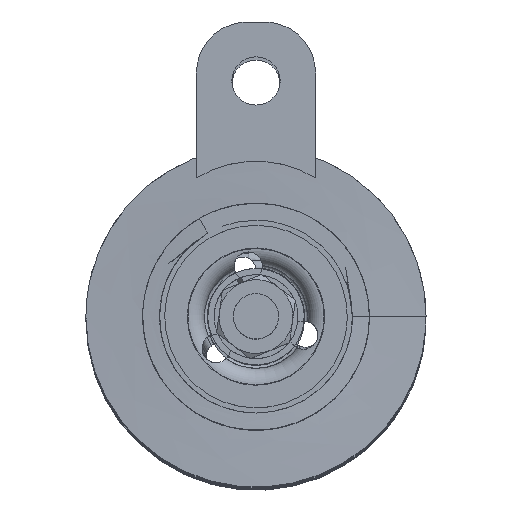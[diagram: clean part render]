
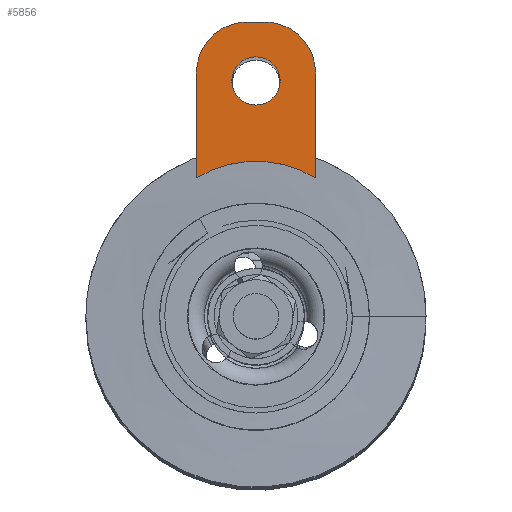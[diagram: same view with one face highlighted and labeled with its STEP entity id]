
A CAD part, top view. The second image highlights one B-rep face of the part: STEP entity #5856.
In plain terms, the highlighted planar face has unit normal (0, 0, 1).
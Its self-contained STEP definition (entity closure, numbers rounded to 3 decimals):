
#170=FACE_BOUND('',#783,.T.);
#184=PLANE('',#6373);
#462=FACE_OUTER_BOUND('',#782,.T.);
#782=EDGE_LOOP('',(#5002,#5003,#5004,#5005,#5006,#5007));
#783=EDGE_LOOP('',(#5008));
#869=CIRCLE('',#6372,20.1);
#870=CIRCLE('',#6374,9.);
#871=CIRCLE('',#6375,9.);
#872=CIRCLE('',#6376,4.25);
#1692=LINE('',#31379,#1984);
#1693=LINE('',#31383,#1985);
#1694=LINE('',#31386,#1986);
#1984=VECTOR('',#7303,10.);
#1985=VECTOR('',#7306,10.);
#1986=VECTOR('',#7309,10.);
#2520=VERTEX_POINT('',#31372);
#2521=VERTEX_POINT('',#31374);
#2522=VERTEX_POINT('',#31378);
#2523=VERTEX_POINT('',#31380);
#2524=VERTEX_POINT('',#31382);
#2525=VERTEX_POINT('',#31384);
#2526=VERTEX_POINT('',#31387);
#3363=EDGE_CURVE('',#2521,#2520,#869,.T.);
#3365=EDGE_CURVE('',#2522,#2520,#1692,.T.);
#3366=EDGE_CURVE('',#2523,#2522,#870,.T.);
#3367=EDGE_CURVE('',#2524,#2523,#1693,.T.);
#3368=EDGE_CURVE('',#2525,#2524,#871,.T.);
#3369=EDGE_CURVE('',#2521,#2525,#1694,.T.);
#3370=EDGE_CURVE('',#2526,#2526,#872,.T.);
#5002=ORIENTED_EDGE('',*,*,#3363,.T.);
#5003=ORIENTED_EDGE('',*,*,#3365,.F.);
#5004=ORIENTED_EDGE('',*,*,#3366,.F.);
#5005=ORIENTED_EDGE('',*,*,#3367,.F.);
#5006=ORIENTED_EDGE('',*,*,#3368,.F.);
#5007=ORIENTED_EDGE('',*,*,#3369,.F.);
#5008=ORIENTED_EDGE('',*,*,#3370,.T.);
#5856=ADVANCED_FACE('',(#462,#170),#184,.T.);
#6372=AXIS2_PLACEMENT_3D('',#31375,#7298,#7299);
#6373=AXIS2_PLACEMENT_3D('',#31377,#7301,#7302);
#6374=AXIS2_PLACEMENT_3D('',#31381,#7304,#7305);
#6375=AXIS2_PLACEMENT_3D('',#31385,#7307,#7308);
#6376=AXIS2_PLACEMENT_3D('',#31388,#7310,#7311);
#7298=DIRECTION('center_axis',(0.,0.,-1.));
#7299=DIRECTION('ref_axis',(1.,0.,0.));
#7301=DIRECTION('center_axis',(0.,0.,1.));
#7302=DIRECTION('ref_axis',(1.,0.,0.));
#7303=DIRECTION('',(0.,-1.,0.));
#7304=DIRECTION('center_axis',(0.,0.,-1.));
#7305=DIRECTION('ref_axis',(0.707,0.707,0.));
#7306=DIRECTION('',(1.,0.,0.));
#7307=DIRECTION('center_axis',(0.,0.,-1.));
#7308=DIRECTION('ref_axis',(-0.707,0.707,0.));
#7309=DIRECTION('',(0.,1.,0.));
#7310=DIRECTION('center_axis',(0.,0.,-1.));
#7311=DIRECTION('ref_axis',(1.,0.,0.));
#31372=CARTESIAN_POINT('',(21.,0.,2.));
#31374=CARTESIAN_POINT('',(0.,0.,2.));
#31375=CARTESIAN_POINT('Origin',(10.5,-17.139,2.));
#31377=CARTESIAN_POINT('Origin',(10.5,13.75,2.));
#31378=CARTESIAN_POINT('',(21.,18.5,2.));
#31379=CARTESIAN_POINT('',(21.,0.,2.));
#31380=CARTESIAN_POINT('',(12.,27.5,2.));
#31381=CARTESIAN_POINT('Origin',(12.,18.5,2.));
#31382=CARTESIAN_POINT('',(9.,27.5,2.));
#31383=CARTESIAN_POINT('',(21.,27.5,2.));
#31384=CARTESIAN_POINT('',(0.,18.5,2.));
#31385=CARTESIAN_POINT('Origin',(9.,18.5,2.));
#31386=CARTESIAN_POINT('',(0.,27.5,2.));
#31387=CARTESIAN_POINT('',(6.25,17.1,2.));
#31388=CARTESIAN_POINT('Origin',(10.5,17.1,2.));
